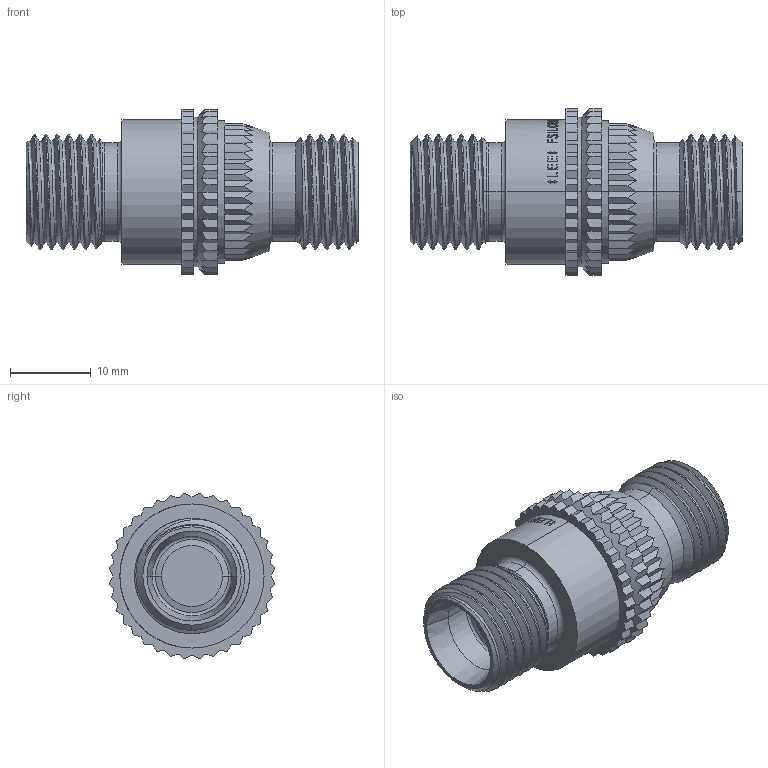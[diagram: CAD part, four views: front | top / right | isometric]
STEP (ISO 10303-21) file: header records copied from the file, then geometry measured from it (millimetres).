
FILE_DESCRIPTION (( 'STEP AP214' ), '1' );
FILE_NAME ('3DFSIL0806000A.STEP', '2017-11-21T13:42:37', ( 'tlc' ), ( 'Microsoft' ), 'SwSTEP 2.0', 'SolidWorks 2017', '' );
FILE_SCHEMA (( 'AUTOMOTIVE_DESIGN' ));
Length unit declared in the file: inch
Products named in the file (1): 3DFSIL0806000A
Bounding box: 41.2 x 20.6 x 20.6 mm (x, y, z)
Volume: 7063.8 mm3; surface area: 3616.2 mm2
Topology: 1 solids, 2 shells, 648 faces, 1789 edges, 1183 vertices
Faces by surface type: plane 389, bspline 159, cylinder 68, cone 22, torus 10
Entity records: 38193 total; most frequent: CARTESIAN_POINT 17225, ORIENTED_EDGE 3578, DIRECTION 2182, EDGE_CURVE 1789, VERTEX_POINT 1183, LINE 820, VECTOR 820, B_SPLINE_CURVE_WITH_KNOTS 733
